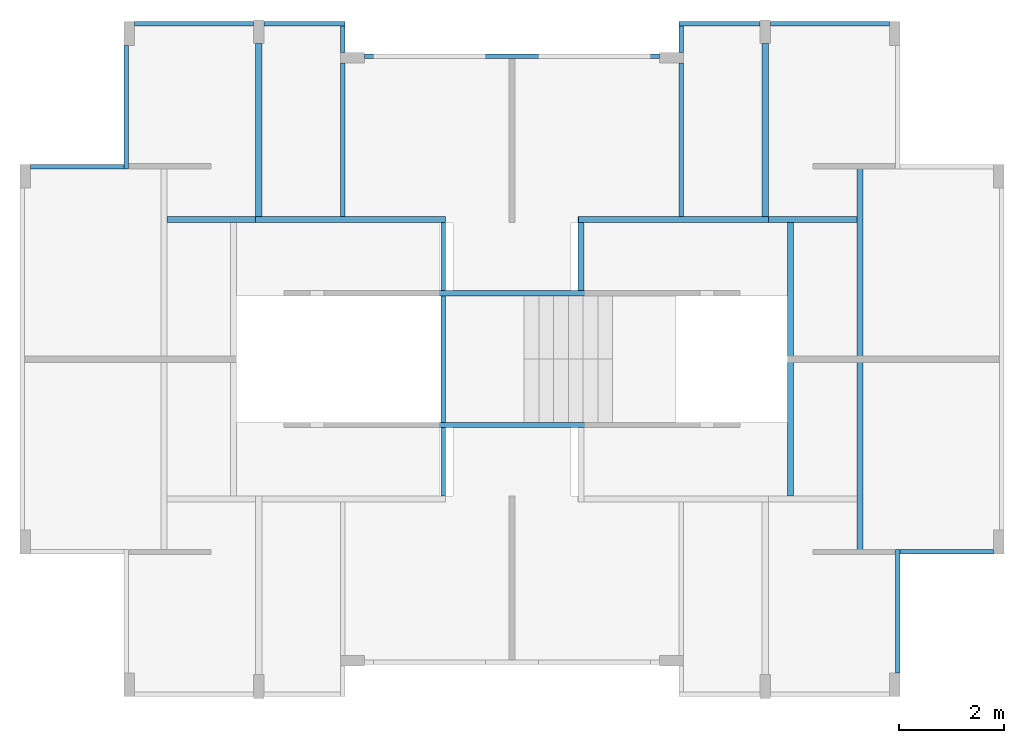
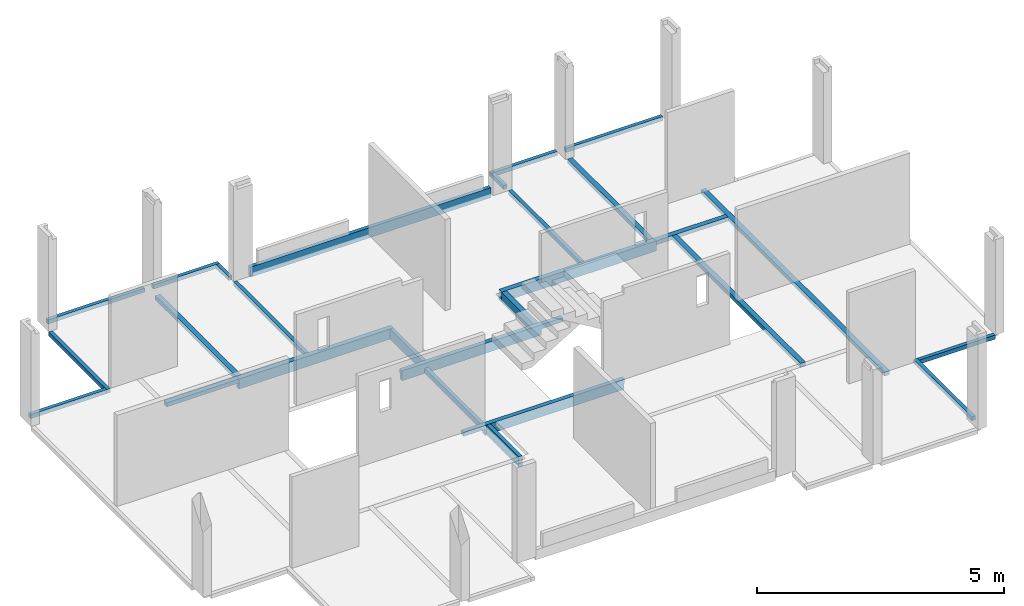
# One storey, part 2 of 6: 21 beams.
"""IFC4 building model written with IfcOpenShell, lengths in metres."""

from ifc_helpers import new_model, entity, si_unit, converted_unit, derived_unit, direction, frame, origin, place, context, subcontext, project, spatial, indexed_curve, outline, extrude, source, transform, mapped, material, type_object, type_shapes, element, save


model = new_model("IFC4")

# Units and contexts
model_context = context("Model", 3, precision=1e-05, world=origin(), true_north=direction((6.123031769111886e-17, 1.0)))
body_context = subcontext(model_context, "Body", "Model", "MODEL_VIEW")
ifc_project = project(units=[si_unit("LENGTHUNIT", "METRE"), si_unit("AREAUNIT", "SQUARE_METRE"), si_unit("VOLUMEUNIT", "CUBIC_METRE"), converted_unit("PLANEANGLEUNIT", "DEGREE", entity("IfcRatioMeasure", 0.017453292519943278), si_unit("PLANEANGLEUNIT", "RADIAN"), dimensions=[0, 0, 0, 0, 0, 0, 0]), si_unit("MASSUNIT", "GRAM", prefix="KILO"), derived_unit("MASSDENSITYUNIT", [(si_unit("MASSUNIT", "GRAM", prefix="KILO"), 1), (si_unit("LENGTHUNIT", "METRE"), -3)]), derived_unit("IONCONCENTRATIONUNIT", [(si_unit("MASSUNIT", "GRAM", prefix="KILO"), 1), (si_unit("LENGTHUNIT", "METRE"), -3)]), derived_unit("MOMENTOFINERTIAUNIT", [(si_unit("LENGTHUNIT", "METRE"), 4)]), si_unit("TIMEUNIT", "SECOND"), si_unit("FREQUENCYUNIT", "HERTZ"), si_unit("THERMODYNAMICTEMPERATUREUNIT", "DEGREE_CELSIUS"), derived_unit("THERMALTRANSMITTANCEUNIT", [(si_unit("MASSUNIT", "GRAM", prefix="KILO"), 1), (si_unit("THERMODYNAMICTEMPERATUREUNIT", "KELVIN"), -1), (si_unit("TIMEUNIT", "SECOND"), -3)]), derived_unit("THERMALCONDUCTANCEUNIT", [(si_unit("MASSUNIT", "GRAM", prefix="KILO"), 1), (si_unit("THERMODYNAMICTEMPERATUREUNIT", "KELVIN"), -1), (si_unit("TIMEUNIT", "SECOND"), -3), (si_unit("LENGTHUNIT", "METRE"), 1)]), derived_unit("VOLUMETRICFLOWRATEUNIT", [(si_unit("LENGTHUNIT", "METRE"), 3), (si_unit("TIMEUNIT", "SECOND"), -1)]), derived_unit("MASSFLOWRATEUNIT", [(si_unit("MASSUNIT", "GRAM", prefix="KILO"), 1), (si_unit("TIMEUNIT", "SECOND"), -1)]), derived_unit("ROTATIONALFREQUENCYUNIT", [(si_unit("TIMEUNIT", "SECOND"), -1)]), si_unit("ELECTRICCURRENTUNIT", "AMPERE"), si_unit("ELECTRICVOLTAGEUNIT", "VOLT"), si_unit("POWERUNIT", "WATT"), si_unit("FORCEUNIT", "NEWTON", prefix="KILO"), si_unit("ILLUMINANCEUNIT", "LUX"), si_unit("LUMINOUSFLUXUNIT", "LUMEN"), si_unit("LUMINOUSINTENSITYUNIT", "CANDELA"), derived_unit("USERDEFINED", [(si_unit("MASSUNIT", "GRAM", prefix="KILO"), -1), (si_unit("LENGTHUNIT", "METRE"), -2), (si_unit("TIMEUNIT", "SECOND"), 3), (si_unit("LUMINOUSFLUXUNIT", "LUMEN"), 1)]), derived_unit("USERDEFINED", [(si_unit("MASSUNIT", "GRAM", prefix="KILO"), 1), (si_unit("TIMEUNIT", "SECOND"), -3), (si_unit("LENGTHUNIT", "METRE"), 3), (si_unit("ELECTRICCURRENTUNIT", "AMPERE"), -2)]), derived_unit("SOUNDPOWERUNIT", [(si_unit("MASSUNIT", "GRAM", prefix="KILO"), 1), (si_unit("TIMEUNIT", "SECOND"), -3), (si_unit("LENGTHUNIT", "METRE"), 2)]), derived_unit("SOUNDPRESSUREUNIT", [(si_unit("MASSUNIT", "GRAM", prefix="KILO"), 1), (si_unit("LENGTHUNIT", "METRE"), -1), (si_unit("TIMEUNIT", "SECOND"), -2)]), derived_unit("LINEARVELOCITYUNIT", [(si_unit("LENGTHUNIT", "METRE"), 1), (si_unit("TIMEUNIT", "SECOND"), -1)]), si_unit("PRESSUREUNIT", "PASCAL"), derived_unit("USERDEFINED", [(si_unit("MASSUNIT", "GRAM", prefix="KILO"), 1), (si_unit("LENGTHUNIT", "METRE"), -2), (si_unit("TIMEUNIT", "SECOND"), -2)]), derived_unit("LINEARFORCEUNIT", [(si_unit("MASSUNIT", "GRAM", prefix="KILO"), 1), (si_unit("TIMEUNIT", "SECOND"), -2)]), derived_unit("PLANARFORCEUNIT", [(si_unit("MASSUNIT", "GRAM", prefix="KILO"), 1), (si_unit("LENGTHUNIT", "METRE"), -1), (si_unit("TIMEUNIT", "SECOND"), -2)]), derived_unit("SPECIFICHEATCAPACITYUNIT", [(si_unit("THERMODYNAMICTEMPERATUREUNIT", "KELVIN"), -1), (si_unit("LENGTHUNIT", "METRE"), 2), (si_unit("TIMEUNIT", "SECOND"), -2)]), derived_unit("HEATINGVALUEUNIT", [(si_unit("LENGTHUNIT", "METRE"), 2), (si_unit("TIMEUNIT", "SECOND"), -2)]), derived_unit("VAPORPERMEABILITYUNIT", [(si_unit("LENGTHUNIT", "METRE"), -1), (si_unit("TIMEUNIT", "SECOND"), 1)]), derived_unit("DYNAMICVISCOSITYUNIT", [(si_unit("MASSUNIT", "GRAM", prefix="KILO"), 1), (si_unit("TIMEUNIT", "SECOND"), -1), (si_unit("LENGTHUNIT", "METRE"), -1)]), derived_unit("THERMALEXPANSIONCOEFFICIENTUNIT", [(si_unit("THERMODYNAMICTEMPERATUREUNIT", "KELVIN"), -1)]), derived_unit("MODULUSOFELASTICITYUNIT", [(si_unit("MASSUNIT", "GRAM", prefix="KILO"), 1), (si_unit("LENGTHUNIT", "METRE"), -1), (si_unit("TIMEUNIT", "SECOND"), -2)]), derived_unit("ISOTHERMALMOISTURECAPACITYUNIT", [(si_unit("LENGTHUNIT", "METRE"), 3), (si_unit("MASSUNIT", "GRAM", prefix="KILO"), -1)]), derived_unit("MOISTUREDIFFUSIVITYUNIT", [(si_unit("TIMEUNIT", "SECOND"), -1), (si_unit("LENGTHUNIT", "METRE"), 2)])], contexts=[model_context])

# Site, building, storey
site_placement = place(None, origin())
site = spatial("IfcSite", under=ifc_project, at=site_placement, Name="Default", CompositionType="ELEMENT")
building_placement = place(site_placement, origin())
building = spatial("IfcBuilding", under=site, at=building_placement, Name="Las nubes", CompositionType="ELEMENT")
storey_placement = place(building_placement, frame((0.0, 0.0, 4.700000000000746)))
storey = spatial("IfcBuildingStorey", under=building, at=storey_placement, Name="PISO 3", CompositionType="ELEMENT", Elevation=4.700000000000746)

# Beams
ifc_material_1 = material(Name="Concrete - Cast-in-Place Concrete - 35 MPa", Category="Materials")
beam_type_1 = type_object("IfcBeamType", Name="M_Concrete-Rectangular Beam:(0.10x0.25)", PredefinedType="BEAM", material=ifc_material_1)
shared_shape_1 = source(origin(), body_context, "Body", "SweptSolid", [
    extrude(outline(indexed_curve([(-1.9263636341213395, -0.09772727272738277), (-1.4263636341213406, -0.09772727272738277), (-1.4213636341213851, -0.09772727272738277), (-1.3913636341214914, -0.09772727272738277), (-1.3063636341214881, -0.09772727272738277), (-1.166363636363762, -0.09772727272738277), (1.073636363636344, -0.09772727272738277), (1.208636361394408, -0.09772727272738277), (1.3236363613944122, -0.09772727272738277), (1.3286363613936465, -0.09772727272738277), (1.8336363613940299, -0.09772727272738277), (1.8336363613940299, 0.0022727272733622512), (1.823636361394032, 0.0022727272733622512), (1.823636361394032, 0.15227272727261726), (1.3336363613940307, 0.15227272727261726), (1.3236363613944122, 0.15227272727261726), (1.208636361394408, 0.15227272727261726), (-1.306363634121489, 0.15227272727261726), (-1.3913636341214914, 0.15227272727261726), (-1.4263636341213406, 0.1522727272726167), (-1.4263636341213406, 0.0022727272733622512), (-1.9263636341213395, 0.002272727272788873), (-1.9263636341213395, -0.09772727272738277)], self_intersect=False)), frame((9.368863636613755, -7.725000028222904, 4.602272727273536), z_axis=(0.0, 1.0, 0.0), x_axis=(1.0, 0.0, 0.0)), (0.0, 0.0, 1.0), 0.10000000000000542),
])
type_shapes(beam_type_1, [shared_shape_1])
beam_1_placement = place(storey_placement, frame((0.0, 0.0, -4.700000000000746)))
element("IfcBeam", 1, at=beam_1_placement, inside=storey, type_object=beam_type_1, material=ifc_material_1, Name="M_Concrete-Rectangular Beam:(0.10x0.25)", ObjectType="M_Concrete-Rectangular Beam:(0.10x0.25)", PredefinedType="BEAM", context=body_context, shape_type="MappedRepresentation", body=[
    mapped(shared_shape_1, transform((0.0, 0.0, 0.0), scale=1.0)),
])
beam_type_2 = type_object("IfcBeamType", Name="M_Concrete-Rectangular Beam:(0.10x0.25)", PredefinedType="BEAM", material=ifc_material_1)
shared_shape_2 = source(origin(), body_context, "Body", "SweptSolid", [
    extrude(outline(indexed_curve([(-0.1100000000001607, -2.285333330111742), (-0.009999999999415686, -2.285333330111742), (-0.009999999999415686, -1.785333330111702), (0.1399999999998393, -1.785333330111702), (0.1399999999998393, 0.8546666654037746), (0.1399999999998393, 0.9396666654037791), (0.1399999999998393, 0.9746666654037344), (0.13999999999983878, 1.4646666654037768), (-0.009999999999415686, 1.4646666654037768), (-0.009999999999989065, 1.4746666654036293), (-0.1100000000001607, 1.4746666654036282), (-0.1100000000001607, 0.9746666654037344), (-0.1100000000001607, 0.9396666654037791), (-0.1100000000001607, -0.6353333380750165), (-0.1100000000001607, -1.785333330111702), (-0.1100000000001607, -2.285333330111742)], self_intersect=False)), frame((8.917166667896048, -5.22500002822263, 4.5900000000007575), z_axis=(0.0, 1.0, 0.0), x_axis=(0.0, 0.0, -1.0)), (0.0, 0.0, 1.0), 0.10000000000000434),
])
type_shapes(beam_type_2, [shared_shape_2])
beam_2_placement = place(storey_placement, frame((0.0, 0.0, -4.700000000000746)))
element("IfcBeam", 2, at=beam_2_placement, inside=storey, type_object=beam_type_2, material=ifc_material_1, Name="M_Concrete-Rectangular Beam:(0.10x0.25)", ObjectType="M_Concrete-Rectangular Beam:(0.10x0.25)", PredefinedType="BEAM", context=body_context, shape_type="MappedRepresentation", body=[
    mapped(shared_shape_2, transform((0.0, 0.0, 0.0), scale=1.0)),
])
ifc_material_2 = material(Name="Concrete, Cast In Situ", Category="Materials")
beam_type_3 = type_object("IfcBeamType", Name="M_Concrete-Rectangular Beam:(0.085x0.10)", PredefinedType="BEAM", material=ifc_material_2)
shared_shape_3 = source(origin(), body_context, "Body", "SweptSolid", [
    extrude(outline(indexed_curve([(-0.04250000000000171, -0.05), (0.04250000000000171, -0.05), (0.04250000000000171, 0.05), (-0.04250000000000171, 0.05), (-0.04250000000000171, -0.05)], self_intersect=False)), frame((1.9899999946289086, -2.810000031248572, 4.650000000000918), z_axis=(0.0, 1.0, 0.0), x_axis=(-1.0, 0.0, 0.0)), (0.0, 0.0, 1.0), 2.3500000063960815),
])
type_shapes(beam_type_3, [shared_shape_3])
beam_3_placement = place(storey_placement, frame((0.0, 0.0, -4.700000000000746)))
element("IfcBeam", 3, at=beam_3_placement, inside=storey, type_object=beam_type_3, material=ifc_material_2, Name="M_Concrete-Rectangular Beam:(0.085x0.10)", ObjectType="M_Concrete-Rectangular Beam:(0.085x0.10)", PredefinedType="BEAM", context=body_context, shape_type="MappedRepresentation", body=[
    mapped(shared_shape_3, transform((0.0, 0.0, 0.0), scale=1.0)),
])
beam_type_4 = type_object("IfcBeamType", Name="M_Concrete-Rectangular Beam:(0.085x0.10)", PredefinedType="BEAM", material=ifc_material_2)
shared_shape_4 = source(origin(), body_context, "Body", "SweptSolid", [
    extrude(outline(indexed_curve([(-0.042500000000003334, -0.05), (0.042499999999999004, -0.05), (0.042499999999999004, 0.05), (-0.042500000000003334, 0.05), (-0.042500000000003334, -0.05)], self_intersect=False)), frame((16.655000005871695, -12.390000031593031, 4.650000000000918), z_axis=(0.0, 1.0, 0.0), x_axis=(-1.0, 0.0, 0.0)), (0.0, 0.0, 1.0), 2.3500028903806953),
])
type_shapes(beam_type_4, [shared_shape_4])
beam_4_placement = place(storey_placement, frame((0.0, 0.0, -4.700000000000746)))
element("IfcBeam", 4, at=beam_4_placement, inside=storey, type_object=beam_type_4, material=ifc_material_2, Name="M_Concrete-Rectangular Beam:(0.085x0.10)", ObjectType="M_Concrete-Rectangular Beam:(0.085x0.10)", PredefinedType="BEAM", context=body_context, shape_type="MappedRepresentation", body=[
    mapped(shared_shape_4, transform((0.0, 0.0, 0.0), scale=1.0)),
])
ifc_material_3 = material(Name="Concrete - Cast-in-Place Concrete - 28 MPa SLAB", Category="Materials")
beam_type_5 = type_object("IfcBeamType", Name="M_Concrete-Rectangular Beam:(0.085x0.10)", PredefinedType="BEAM", material=ifc_material_3)
shared_shape_5 = source(origin(), body_context, "Body", "SweptSolid", [
    extrude(outline(indexed_curve([(-0.050000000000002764, -0.04249999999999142), (0.04999999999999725, -0.042500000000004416), (0.050000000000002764, 0.04249999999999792), (-0.04999999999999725, 0.042500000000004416), (-0.050000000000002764, -0.04249999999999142)], self_intersect=False)), frame((16.697500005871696, -10.082497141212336, 4.650000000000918), z_axis=(1.0, 0.0, 0.0), x_axis=(0.0, 0.0, -1.0)), (0.0, 0.0, 1.0), 1.7749999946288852),
])
type_shapes(beam_type_5, [shared_shape_5])
beam_5_placement = place(storey_placement, frame((0.0, 0.0, -4.700000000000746)))
element("IfcBeam", 5, at=beam_5_placement, inside=storey, type_object=beam_type_5, material=ifc_material_3, Name="M_Concrete-Rectangular Beam:(0.085x0.10)", ObjectType="M_Concrete-Rectangular Beam:(0.085x0.10)", PredefinedType="BEAM", context=body_context, shape_type="MappedRepresentation", body=[
    mapped(shared_shape_5, transform((0.0, 0.0, 0.0), scale=1.0)),
])
beam_type_6 = type_object("IfcBeamType", Name="M_Concrete-Rectangular Beam:(0.085x0.25)", PredefinedType="BEAM", material=ifc_material_2)
shared_shape_6 = source(origin(), body_context, "Body", "SweptSolid", [
    extrude(outline(indexed_curve([(-0.04250000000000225, -0.12499999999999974), (0.04250000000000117, -0.12499999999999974), (0.04250000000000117, 0.12500000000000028), (-0.04250000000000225, 0.12500000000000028), (-0.04250000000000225, -0.12499999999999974)], self_intersect=False)), frame((8.020000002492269, -5.125000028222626, 4.575000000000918), z_axis=(0.0, 1.0, 0.0), x_axis=(-1.0, 0.0, 0.0)), (0.0, 0.0, 1.0), 1.3000000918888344),
    extrude(outline(indexed_curve([(-0.04250000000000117, -0.12499999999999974), (0.04250000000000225, -0.12499999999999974), (0.04250000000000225, 0.12500000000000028), (-0.04250000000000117, 0.12500000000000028), (-0.04250000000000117, -0.12499999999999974)], self_intersect=False)), frame((8.020000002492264, -9.025000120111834, 4.575000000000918), z_axis=(0.0, 1.0, 0.0), x_axis=(-1.0, 0.0, 0.0)), (0.0, 0.0, 1.0), 1.3000000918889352),
    extrude(outline(indexed_curve([(-0.04250000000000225, -0.06499999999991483), (0.04250000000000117, -0.06499999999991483), (0.042500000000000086, 0.06499999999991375), (-0.04250000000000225, 0.06499999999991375), (-0.04250000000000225, -0.06499999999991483)], self_intersect=False)), frame((8.020000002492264, -7.6250000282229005, 4.515000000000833), z_axis=(0.0, 1.0, 0.0), x_axis=(-1.0, 0.0, 0.0)), (0.0, 0.0, 1.0), 2.4000000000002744),
])
type_shapes(beam_type_6, [shared_shape_6])
beam_6_placement = place(storey_placement, frame((0.0, 0.0, -4.700000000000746)))
element("IfcBeam", 6, at=beam_6_placement, inside=storey, type_object=beam_type_6, material=ifc_material_2, Name="M_Concrete-Rectangular Beam:(0.085x0.25)", ObjectType="M_Concrete-Rectangular Beam:(0.085x0.25)", PredefinedType="BEAM", context=body_context, shape_type="MappedRepresentation", body=[
    mapped(shared_shape_6, transform((0.0, 0.0, 0.0), scale=1.0)),
])
beam_type_7 = type_object("IfcBeamType", Name="M_Concrete-Rectangular Beam:(0.115x0.25)", PredefinedType="BEAM", material=ifc_material_2)
shared_shape_7 = source(origin(), body_context, "Body", "SweptSolid", [
    extrude(outline(indexed_curve([(-0.12500000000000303, -0.05749999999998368), (0.124999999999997, -0.0575000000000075), (0.12500000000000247, 0.05749999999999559), (-0.12499999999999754, 0.0575000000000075), (-0.12500000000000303, -0.05749999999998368)], self_intersect=False)), frame((8.062500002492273, -3.7674999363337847, 4.575000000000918), z_axis=(-1.0, 0.0, 0.0), x_axis=(0.0, 0.0, -1.0)), (0.0, 0.0, 1.0), 3.610000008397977),
])
type_shapes(beam_type_7, [shared_shape_7])
beam_7_placement = place(storey_placement, frame((0.0, 0.0, -4.700000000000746)))
element("IfcBeam", 7, at=beam_7_placement, inside=storey, type_object=beam_type_7, material=ifc_material_2, Name="M_Concrete-Rectangular Beam:(0.115x0.25)", ObjectType="M_Concrete-Rectangular Beam:(0.115x0.25)", PredefinedType="BEAM", context=body_context, shape_type="MappedRepresentation", body=[
    mapped(shared_shape_7, transform((0.0, 0.0, 0.0), scale=1.0)),
])
beam_type_8 = type_object("IfcBeamType", Name="M_Concrete-Rectangular Beam:(0.115x0.25)", PredefinedType="BEAM", material=ifc_material_2)
shared_shape_8 = source(origin(), body_context, "Body", "SweptSolid", [
    extrude(outline(indexed_curve([(-0.14499999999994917, -1.1205000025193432), (0.004999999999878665, -1.1205000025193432), (0.004999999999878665, -1.1155000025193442), (0.1050000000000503, -1.1155000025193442), (0.1050000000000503, -1.005500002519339), (0.1050000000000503, -1.000500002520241), (0.1050000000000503, 2.494500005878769), (0.004999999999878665, 2.494500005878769), (-0.14499999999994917, 2.494500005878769), (-0.14499999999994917, -1.005500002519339), (-0.14499999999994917, -1.1205000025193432)], self_intersect=False)), frame((11.698000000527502, -3.824999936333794, 4.5950000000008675), z_axis=(0.0, 1.0, 0.0), x_axis=(0.0, 0.0, 1.0)), (0.0, 0.0, 1.0), 0.1150000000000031),
])
type_shapes(beam_type_8, [shared_shape_8])
beam_8_placement = place(storey_placement, frame((0.0, 0.0, -4.700000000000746)))
element("IfcBeam", 8, at=beam_8_placement, inside=storey, type_object=beam_type_8, material=ifc_material_2, Name="M_Concrete-Rectangular Beam:(0.115x0.25)", ObjectType="M_Concrete-Rectangular Beam:(0.115x0.25)", PredefinedType="BEAM", context=body_context, shape_type="MappedRepresentation", body=[
    mapped(shared_shape_8, transform((0.0, 0.0, 0.0), scale=1.0)),
])
beam_type_9 = type_object("IfcBeamType", Name="M_Concrete-Rectangular Beam:(0.115x0.25)", PredefinedType="BEAM", material=ifc_material_2)
shared_shape_9 = source(origin(), body_context, "Body", "SweptSolid", [
    extrude(outline(indexed_curve([(-0.05750000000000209, -0.12499999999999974), (0.05750000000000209, -0.12499999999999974), (0.05750000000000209, 0.12500000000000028), (-0.05750000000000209, 0.12500000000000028), (-0.05750000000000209, -0.12499999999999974)], self_intersect=False)), frame((10.634999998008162, -5.125000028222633, 4.575000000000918), z_axis=(0.0, 1.0, 0.0), x_axis=(-1.0, 0.0, 0.0)), (0.0, 0.0, 1.0), 1.3000000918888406),
])
type_shapes(beam_type_9, [shared_shape_9])
beam_9_placement = place(storey_placement, frame((0.0, 0.0, -4.700000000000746)))
element("IfcBeam", 9, at=beam_9_placement, inside=storey, type_object=beam_type_9, material=ifc_material_2, Name="M_Concrete-Rectangular Beam:(0.115x0.25)", ObjectType="M_Concrete-Rectangular Beam:(0.115x0.25)", PredefinedType="BEAM", context=body_context, shape_type="MappedRepresentation", body=[
    mapped(shared_shape_9, transform((0.0, 0.0, 0.0), scale=1.0)),
])
beam_type_10 = type_object("IfcBeamType", Name="M_Concrete-Rectangular Beam:(0.085x0.25)", PredefinedType="BEAM", material=ifc_material_2)
shared_shape_10 = source(origin(), body_context, "Body", "SweptSolid", [
    extrude(outline(indexed_curve([(-0.12500000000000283, -0.042499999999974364), (0.1249999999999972, -0.04250000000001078), (0.12500000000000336, 0.04249999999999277), (-0.12499999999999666, 0.04250000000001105), (-0.12500000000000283, -0.042499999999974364)], self_intersect=False)), frame((6.517499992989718, -0.6675000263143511, 4.725000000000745), z_axis=(1.0, 0.0, 0.0), x_axis=(0.0, 0.0, -1.0)), (0.0, 0.0, 1.0), 5.610000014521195),
])
type_shapes(beam_type_10, [shared_shape_10])
beam_10_placement = place(storey_placement, frame((0.0, 0.0, -4.700000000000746)))
element("IfcBeam", 10, at=beam_10_placement, inside=storey, type_object=beam_type_10, material=ifc_material_2, Name="M_Concrete-Rectangular Beam:(0.085x0.25)", ObjectType="M_Concrete-Rectangular Beam:(0.085x0.25)", PredefinedType="BEAM", context=body_context, shape_type="MappedRepresentation", body=[
    mapped(shared_shape_10, transform((0.0, 0.0, 0.0), scale=1.0)),
])
beam_type_11 = type_object("IfcBeamType", Name="M_Concrete-Rectangular Beam:(0.115x0.10)", PredefinedType="BEAM", material=ifc_material_2)
shared_shape_11 = source(origin(), body_context, "Body", "SweptSolid", [
    extrude(outline(indexed_curve([(-0.05750000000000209, -0.05), (0.05750000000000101, -0.05), (0.05750000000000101, 0.05), (-0.05750000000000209, 0.05), (-0.05750000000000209, -0.05)], self_intersect=False)), frame((4.5099999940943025, -0.4300000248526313, 4.650000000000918), z_axis=(0.0, -1.0, 0.0), x_axis=(-1.0, 0.0, 0.0)), (0.0, 0.0, 1.0), 3.2799999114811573),
])
type_shapes(beam_type_11, [shared_shape_11])
beam_11_placement = place(storey_placement, frame((0.0, 0.0, -4.700000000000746)))
element("IfcBeam", 11, at=beam_11_placement, inside=storey, type_object=beam_type_11, material=ifc_material_2, Name="M_Concrete-Rectangular Beam:(0.115x0.10)", ObjectType="M_Concrete-Rectangular Beam:(0.115x0.10)", PredefinedType="BEAM", context=body_context, shape_type="MappedRepresentation", body=[
    mapped(shared_shape_11, transform((0.0, 0.0, 0.0), scale=1.0)),
])
beam_type_12 = type_object("IfcBeamType", Name="M_Concrete-Rectangular Beam:(0.115x0.10)", PredefinedType="BEAM", material=ifc_material_2)
shared_shape_12 = source(origin(), body_context, "Body", "SweptSolid", [
    extrude(outline(indexed_curve([(-0.05000000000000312, -0.057499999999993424), (0.049999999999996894, -0.057500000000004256), (0.05000000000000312, 0.057499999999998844), (-0.049999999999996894, 0.057500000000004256), (-0.05000000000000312, -0.057499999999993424)], self_intersect=False)), frame((4.452499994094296, -3.7675000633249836, 4.650000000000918), z_axis=(-1.0, 0.0, 0.0), x_axis=(0.0, 0.0, -1.0)), (0.0, 0.0, 1.0), 1.6849989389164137),
])
type_shapes(beam_type_12, [shared_shape_12])
beam_12_placement = place(storey_placement, frame((0.0, 0.0, -4.700000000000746)))
element("IfcBeam", 12, at=beam_12_placement, inside=storey, type_object=beam_type_12, material=ifc_material_2, Name="M_Concrete-Rectangular Beam:(0.115x0.10)", ObjectType="M_Concrete-Rectangular Beam:(0.115x0.10)", PredefinedType="BEAM", context=body_context, shape_type="MappedRepresentation", body=[
    mapped(shared_shape_12, transform((0.0, 0.0, 0.0), scale=1.0)),
])
beam_type_13 = type_object("IfcBeamType", Name="M_Concrete-Rectangular Beam:(0.115x0.10)", PredefinedType="BEAM", material=ifc_material_2)
shared_shape_13 = source(origin(), body_context, "Body", "SweptSolid", [
    extrude(outline(indexed_curve([(-0.057500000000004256, -0.05), (0.05750000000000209, -0.05), (0.05750000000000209, 0.05), (-0.05750000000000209, 0.05), (-0.057500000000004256, -0.05)], self_intersect=False)), frame((15.934998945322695, -10.14000003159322, 4.650000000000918), z_axis=(0.0, 1.0, 0.0), x_axis=(-1.0, 0.0, 0.0)), (0.0, 0.0, 1.0), 7.430000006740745),
])
type_shapes(beam_type_13, [shared_shape_13])
beam_13_placement = place(storey_placement, frame((0.0, 0.0, -4.700000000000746)))
element("IfcBeam", 13, at=beam_13_placement, inside=storey, type_object=beam_type_13, material=ifc_material_2, Name="M_Concrete-Rectangular Beam:(0.115x0.10)", ObjectType="M_Concrete-Rectangular Beam:(0.115x0.10)", PredefinedType="BEAM", context=body_context, shape_type="MappedRepresentation", body=[
    mapped(shared_shape_13, transform((0.0, 0.0, 0.0), scale=1.0)),
])
beam_type_14 = type_object("IfcBeamType", Name="M_Concrete-Rectangular Beam:(0.115x0.10)", PredefinedType="BEAM", material=ifc_material_2)
shared_shape_14 = source(origin(), body_context, "Body", "SweptSolid", [
    extrude(outline(indexed_curve([(-0.05750000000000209, -0.05), (0.05750000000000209, -0.05), (0.05750000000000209, 0.05), (-0.05750000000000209, 0.05), (-0.05750000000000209, -0.05)], self_intersect=False)), frame((14.615000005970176, -9.025000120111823, 4.650000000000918), z_axis=(0.0, 1.0, 0.0), x_axis=(-1.0, 0.0, 0.0)), (0.0, 0.0, 1.0), 5.200000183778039),
])
type_shapes(beam_type_14, [shared_shape_14])
beam_14_placement = place(storey_placement, frame((0.0, 0.0, -4.700000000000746)))
element("IfcBeam", 14, at=beam_14_placement, inside=storey, type_object=beam_type_14, material=ifc_material_2, Name="M_Concrete-Rectangular Beam:(0.115x0.10)", ObjectType="M_Concrete-Rectangular Beam:(0.115x0.10)", PredefinedType="BEAM", context=body_context, shape_type="MappedRepresentation", body=[
    mapped(shared_shape_14, transform((0.0, 0.0, 0.0), scale=1.0)),
])
beam_type_15 = type_object("IfcBeamType", Name="M_Concrete-Rectangular Beam:(0.115x0.10)", PredefinedType="BEAM", material=ifc_material_2)
shared_shape_15 = source(origin(), body_context, "Body", "SweptSolid", [
    extrude(outline(indexed_curve([(-0.05000000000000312, -0.057499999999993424), (0.049999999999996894, -0.057500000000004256), (0.05000000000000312, 0.057499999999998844), (-0.049999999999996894, 0.057500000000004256), (-0.05000000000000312, -0.057499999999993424)], self_intersect=False)), frame((14.192500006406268, -3.7675000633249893, 4.650000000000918), z_axis=(1.0, 0.0, 0.0), x_axis=(0.0, 0.0, -1.0)), (0.0, 0.0, 1.0), 1.6849989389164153),
])
type_shapes(beam_type_15, [shared_shape_15])
beam_15_placement = place(storey_placement, frame((0.0, 0.0, -4.700000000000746)))
element("IfcBeam", 15, at=beam_15_placement, inside=storey, type_object=beam_type_15, material=ifc_material_2, Name="M_Concrete-Rectangular Beam:(0.115x0.10)", ObjectType="M_Concrete-Rectangular Beam:(0.115x0.10)", PredefinedType="BEAM", context=body_context, shape_type="MappedRepresentation", body=[
    mapped(shared_shape_15, transform((0.0, 0.0, 0.0), scale=1.0)),
])
beam_type_16 = type_object("IfcBeamType", Name="M_Concrete-Rectangular Beam:(0.115x0.10)", PredefinedType="BEAM", material=ifc_material_2)
shared_shape_16 = source(origin(), body_context, "Body", "SweptSolid", [
    extrude(outline(indexed_curve([(-0.057499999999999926, -0.05), (0.05750000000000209, -0.05), (0.057500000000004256, 0.05), (-0.05750000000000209, 0.05), (-0.057499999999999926, -0.05)], self_intersect=False)), frame((14.135000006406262, -0.4300000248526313, 4.650000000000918), z_axis=(0.0, -1.0, 0.0), x_axis=(-1.0, 0.0, 0.0)), (0.0, 0.0, 1.0), 3.2799999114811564),
])
type_shapes(beam_type_16, [shared_shape_16])
beam_16_placement = place(storey_placement, frame((0.0, 0.0, -4.700000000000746)))
element("IfcBeam", 16, at=beam_16_placement, inside=storey, type_object=beam_type_16, material=ifc_material_2, Name="M_Concrete-Rectangular Beam:(0.115x0.10)", ObjectType="M_Concrete-Rectangular Beam:(0.115x0.10)", PredefinedType="BEAM", context=body_context, shape_type="MappedRepresentation", body=[
    mapped(shared_shape_16, transform((0.0, 0.0, 0.0), scale=1.0)),
])
beam_type_17 = type_object("IfcBeamType", Name="M_Concrete-Rectangular Beam:(0.085x0.10)", PredefinedType="BEAM", material=ifc_material_2)
shared_shape_17 = source(origin(), body_context, "Body", "SweptSolid", [
    extrude(outline(indexed_curve([(-0.05000000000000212, -0.0424999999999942), (0.049999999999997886, -0.04250000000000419), (0.05000000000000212, 0.0424999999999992), (-0.049999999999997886, 0.04250000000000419), (-0.05000000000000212, -0.0424999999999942)], self_intersect=False)), frame((14.035000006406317, -0.05250003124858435, 4.650000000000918), z_axis=(-1.0, 0.0, 0.0), x_axis=(0.0, 0.0, -1.0)), (0.0, 0.0, 1.0), 1.5424999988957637),
    extrude(outline(indexed_curve([(-0.05000000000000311, -0.042499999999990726), (0.0499999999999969, -0.042500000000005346), (0.05000000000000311, 0.04249999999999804), (-0.0499999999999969, 0.042500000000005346), (-0.05000000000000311, -0.042499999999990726)], self_intersect=False)), frame((16.497500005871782, -0.05250003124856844, 4.650000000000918), z_axis=(-1.0, 0.0, 0.0), x_axis=(0.0, 0.0, -1.0)), (0.0, 0.0, 1.0), 2.2624999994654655),
])
type_shapes(beam_type_17, [shared_shape_17])
beam_17_placement = place(storey_placement, frame((0.0, 0.0, -4.700000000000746)))
element("IfcBeam", 17, at=beam_17_placement, inside=storey, type_object=beam_type_17, material=ifc_material_2, Name="M_Concrete-Rectangular Beam:(0.085x0.10)", ObjectType="M_Concrete-Rectangular Beam:(0.085x0.10)", PredefinedType="BEAM", context=body_context, shape_type="MappedRepresentation", body=[
    mapped(shared_shape_17, transform((0.0, 0.0, 0.0), scale=1.0)),
])
beam_type_18 = type_object("IfcBeamType", Name="M_Concrete-Rectangular Beam:(0.085x0.10)", PredefinedType="BEAM", material=ifc_material_2)
shared_shape_18 = source(origin(), body_context, "Body", "SweptSolid", [
    extrude(outline(indexed_curve([(-0.04250000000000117, -0.05), (0.04250000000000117, -0.05), (0.04250000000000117, 0.05), (-0.04250000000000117, 0.05), (-0.04250000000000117, -0.05)], self_intersect=False)), frame((12.535000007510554, -0.7950000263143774, 4.650000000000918), z_axis=(0.0, -1.0, 0.0), x_axis=(-1.0, 0.0, 0.0)), (0.0, 0.0, 1.0), 2.914999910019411),
    extrude(outline(indexed_curve([(-0.04250000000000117, -0.05), (0.04250000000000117, -0.05), (0.04250000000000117, 0.05), (-0.04250000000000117, 0.05), (-0.04250000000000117, -0.05)], self_intersect=False)), frame((12.535000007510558, -0.09500002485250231, 4.650000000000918), z_axis=(0.0, -1.0, 0.0), x_axis=(-1.0, 0.0, 0.0)), (0.0, 0.0, 1.0), 0.5000000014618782),
])
type_shapes(beam_type_18, [shared_shape_18])
beam_18_placement = place(storey_placement, frame((0.0, 0.0, -4.700000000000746)))
element("IfcBeam", 18, at=beam_18_placement, inside=storey, type_object=beam_type_18, material=ifc_material_2, Name="M_Concrete-Rectangular Beam:(0.085x0.10)", ObjectType="M_Concrete-Rectangular Beam:(0.085x0.10)", PredefinedType="BEAM", context=body_context, shape_type="MappedRepresentation", body=[
    mapped(shared_shape_18, transform((0.0, 0.0, 0.0), scale=1.0)),
])
beam_type_19 = type_object("IfcBeamType", Name="M_Concrete-Rectangular Beam:(0.085x0.10)", PredefinedType="BEAM", material=ifc_material_2)
shared_shape_19 = source(origin(), body_context, "Body", "SweptSolid", [
    extrude(outline(indexed_curve([(-0.050000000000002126, -0.042499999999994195), (0.04999999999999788, -0.04250000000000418), (0.050000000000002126, 0.0424999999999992), (-0.04999999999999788, 0.04250000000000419), (-0.050000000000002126, -0.042499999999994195)], self_intersect=False)), frame((4.609999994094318, -0.05247950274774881, 4.650000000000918), z_axis=(1.0, 0.0, 0.0), x_axis=(0.0, 0.0, -1.0)), (0.0, 0.0, 1.0), 1.5424999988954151),
    extrude(outline(indexed_curve([(-0.05000000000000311, -0.042499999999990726), (0.0499999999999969, -0.042500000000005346), (0.05000000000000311, 0.04249999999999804), (-0.0499999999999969, 0.042500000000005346), (-0.05000000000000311, -0.042499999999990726)], self_intersect=False)), frame((2.14749999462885, -0.05247950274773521, 4.650000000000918), z_axis=(1.0, 0.0, 0.0), x_axis=(0.0, 0.0, -1.0)), (0.0, 0.0, 1.0), 2.2624999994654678),
])
type_shapes(beam_type_19, [shared_shape_19])
beam_19_placement = place(storey_placement, frame((0.0, 0.0, -4.700000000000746)))
element("IfcBeam", 19, at=beam_19_placement, inside=storey, type_object=beam_type_19, material=ifc_material_2, Name="M_Concrete-Rectangular Beam:(0.085x0.10)", ObjectType="M_Concrete-Rectangular Beam:(0.085x0.10)", PredefinedType="BEAM", context=body_context, shape_type="MappedRepresentation", body=[
    mapped(shared_shape_19, transform((0.0, 0.0, 0.0), scale=1.0)),
])
beam_type_20 = type_object("IfcBeamType", Name="M_Concrete-Rectangular Beam:(0.085x0.10)", PredefinedType="BEAM", material=ifc_material_2)
shared_shape_20 = source(origin(), body_context, "Body", "SweptSolid", [
    extrude(outline(indexed_curve([(-0.04250000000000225, -0.05), (0.04250000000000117, -0.05), (0.04250000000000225, 0.05), (-0.04250000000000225, 0.05), (-0.04250000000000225, -0.05)], self_intersect=False)), frame((6.109999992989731, -0.09497950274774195, 4.650000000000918), z_axis=(0.0, -1.0, 0.0), x_axis=(-1.0, 0.0, 0.0)), (0.0, 0.0, 1.0), 0.5000205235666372),
    extrude(outline(indexed_curve([(-0.04250000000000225, -0.05), (0.04250000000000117, -0.05), (0.04250000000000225, 0.05), (-0.04250000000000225, 0.05), (-0.04250000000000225, -0.05)], self_intersect=False)), frame((6.10999999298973, -0.7950000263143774, 4.650000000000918), z_axis=(0.0, -1.0, 0.0), x_axis=(-1.0, 0.0, 0.0)), (0.0, 0.0, 1.0), 2.914999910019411),
])
type_shapes(beam_type_20, [shared_shape_20])
beam_20_placement = place(storey_placement, frame((0.0, 0.0, -4.700000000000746)))
element("IfcBeam", 20, at=beam_20_placement, inside=storey, type_object=beam_type_20, material=ifc_material_2, Name="M_Concrete-Rectangular Beam:(0.085x0.10)", ObjectType="M_Concrete-Rectangular Beam:(0.085x0.10)", PredefinedType="BEAM", context=body_context, shape_type="MappedRepresentation", body=[
    mapped(shared_shape_20, transform((0.0, 0.0, 0.0), scale=1.0)),
])
beam_type_21 = type_object("IfcBeamType", Name="M_Concrete-Rectangular Beam:(0.085x0.10)", PredefinedType="BEAM", material=ifc_material_2)
shared_shape_21 = source(origin(), body_context, "Body", "SweptSolid", [
    extrude(outline(indexed_curve([(-0.050000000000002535, -0.042499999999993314), (0.04999999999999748, -0.04250000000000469), (0.050000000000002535, 0.04249999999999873), (-0.04999999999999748, 0.04250000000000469), (-0.050000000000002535, -0.042499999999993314)], self_intersect=False)), frame((0.17250000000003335, -2.7675000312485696, 4.650000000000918), z_axis=(1.0, 0.0, 0.0), x_axis=(0.0, 0.0, -1.0)), (0.0, 0.0, 1.0), 1.7749999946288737),
])
type_shapes(beam_type_21, [shared_shape_21])
beam_21_placement = place(storey_placement, frame((0.0, 0.0, -4.700000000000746)))
element("IfcBeam", 21, at=beam_21_placement, inside=storey, type_object=beam_type_21, material=ifc_material_2, Name="M_Concrete-Rectangular Beam:(0.085x0.10)", ObjectType="M_Concrete-Rectangular Beam:(0.085x0.10)", PredefinedType="BEAM", context=body_context, shape_type="MappedRepresentation", body=[
    mapped(shared_shape_21, transform((0.0, 0.0, 0.0), scale=1.0)),
])

save(model, "model.ifc")
